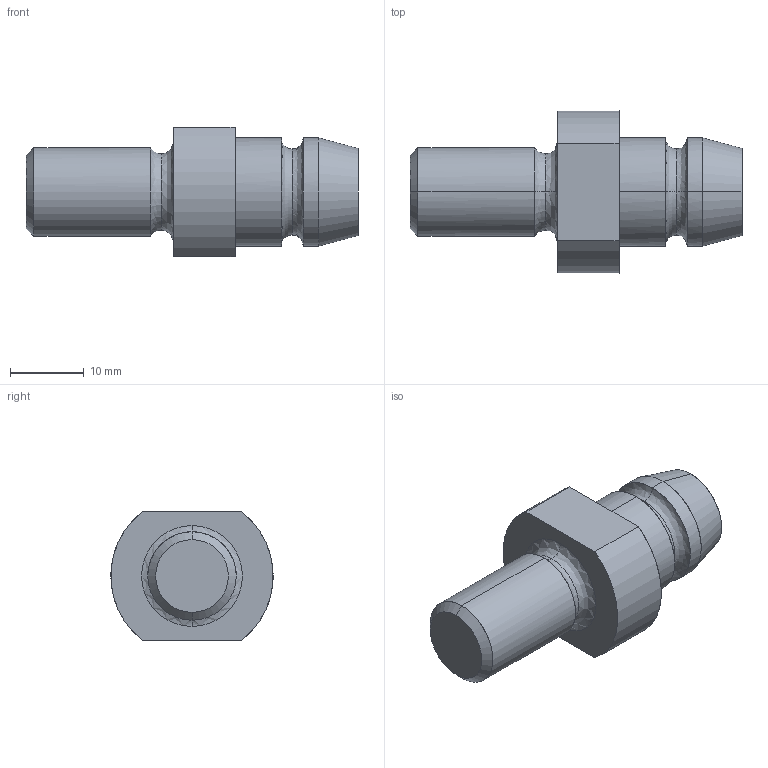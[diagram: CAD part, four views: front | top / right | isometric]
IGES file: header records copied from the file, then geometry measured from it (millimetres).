
Start section: START RECORD GO HERE.
Global section: file name: AGS3301M12.igs; native system: DASSAULT SYSTEMES CATIA V5 R20 - www.3ds.com; preprocessor: CATIA Version 5 Release 20 ; author: Utente; organization: NB04-ASUS; date: 20210221.200955; units: millimetre
Bounding box: 45 x 21.99 x 17.6 mm (x, y, z)
Surface area: 2716.9 mm2 (no closed solid volume)
Topology: 0 solids, 0 shells, 26 faces, 140 edges, 140 vertices
Faces by surface type: revolution 20, plane 6
